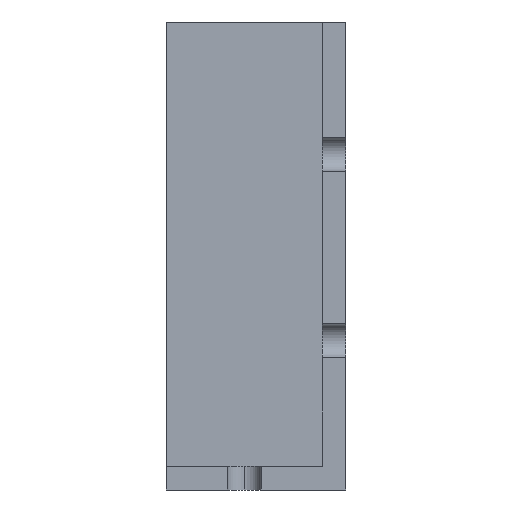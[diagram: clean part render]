
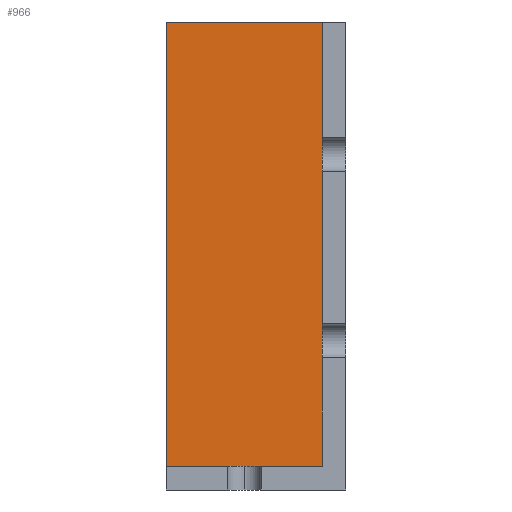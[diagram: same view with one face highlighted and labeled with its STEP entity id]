
A CAD part, left-side view. The second image highlights one B-rep face of the part: STEP entity #966.
In plain terms, the highlighted planar face has unit normal (-1, 0, 0).
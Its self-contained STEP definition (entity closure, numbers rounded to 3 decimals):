
#78 = VECTOR ( 'NONE', #503, 1000. ) ;
#86 = CARTESIAN_POINT ( 'NONE',  ( 8., 3.5, 0. ) ) ;
#99 = CARTESIAN_POINT ( 'NONE',  ( 8., 3.5, -65.5 ) ) ;
#106 = VERTEX_POINT ( 'NONE', #86 ) ;
#110 = LINE ( 'NONE', #99, #299 ) ;
#120 = PLANE ( 'NONE',  #655 ) ;
#147 = EDGE_CURVE ( 'NONE', #106, #1143, #992, .T. ) ;
#271 = EDGE_LOOP ( 'NONE', ( #1101, #648, #972, #484 ) ) ;
#273 = EDGE_CURVE ( 'NONE', #759, #986, #834, .T. ) ;
#275 = EDGE_CURVE ( 'NONE', #759, #106, #110, .T. ) ;
#299 = VECTOR ( 'NONE', #848, 1000. ) ;
#365 = VECTOR ( 'NONE', #1232, 1000. ) ;
#412 = DIRECTION ( 'NONE',  ( 1., 0., 0. ) ) ;
#482 = CARTESIAN_POINT ( 'NONE',  ( 8., 26.5, -65.5 ) ) ;
#484 = ORIENTED_EDGE ( 'NONE', *, *, #275, .T. ) ;
#503 = DIRECTION ( 'NONE',  ( 0., 0., 1. ) ) ;
#524 = CARTESIAN_POINT ( 'NONE',  ( 8., 3.5, -65.5 ) ) ;
#629 = CARTESIAN_POINT ( 'NONE',  ( 8., 26.5, 0. ) ) ;
#648 = ORIENTED_EDGE ( 'NONE', *, *, #934, .F. ) ;
#655 = AXIS2_PLACEMENT_3D ( 'NONE', #980, #412, #1077 ) ;
#759 = VERTEX_POINT ( 'NONE', #524 ) ;
#834 = LINE ( 'NONE', #482, #365 ) ;
#838 = CARTESIAN_POINT ( 'NONE',  ( 8., 26.5, 0. ) ) ;
#848 = DIRECTION ( 'NONE',  ( 0., 0., 1. ) ) ;
#934 = EDGE_CURVE ( 'NONE', #986, #1143, #1233, .T. ) ;
#959 = DIRECTION ( 'NONE',  ( 0., 1., 0. ) ) ;
#966 = ADVANCED_FACE ( 'NONE', ( #1181 ), #120, .F. ) ;
#972 = ORIENTED_EDGE ( 'NONE', *, *, #273, .F. ) ;
#980 = CARTESIAN_POINT ( 'NONE',  ( 8., 26.5, -65.5 ) ) ;
#984 = CARTESIAN_POINT ( 'NONE',  ( 8., 26.5, -65.5 ) ) ;
#986 = VERTEX_POINT ( 'NONE', #984 ) ;
#992 = LINE ( 'NONE', #838, #1231 ) ;
#1073 = CARTESIAN_POINT ( 'NONE',  ( 8., 26.5, -65.5 ) ) ;
#1077 = DIRECTION ( 'NONE',  ( 0., 0., -1. ) ) ;
#1101 = ORIENTED_EDGE ( 'NONE', *, *, #147, .T. ) ;
#1143 = VERTEX_POINT ( 'NONE', #629 ) ;
#1181 = FACE_OUTER_BOUND ( 'NONE', #271, .T. ) ;
#1231 = VECTOR ( 'NONE', #959, 1000. ) ;
#1232 = DIRECTION ( 'NONE',  ( 0., 1., 0. ) ) ;
#1233 = LINE ( 'NONE', #1073, #78 ) ;
